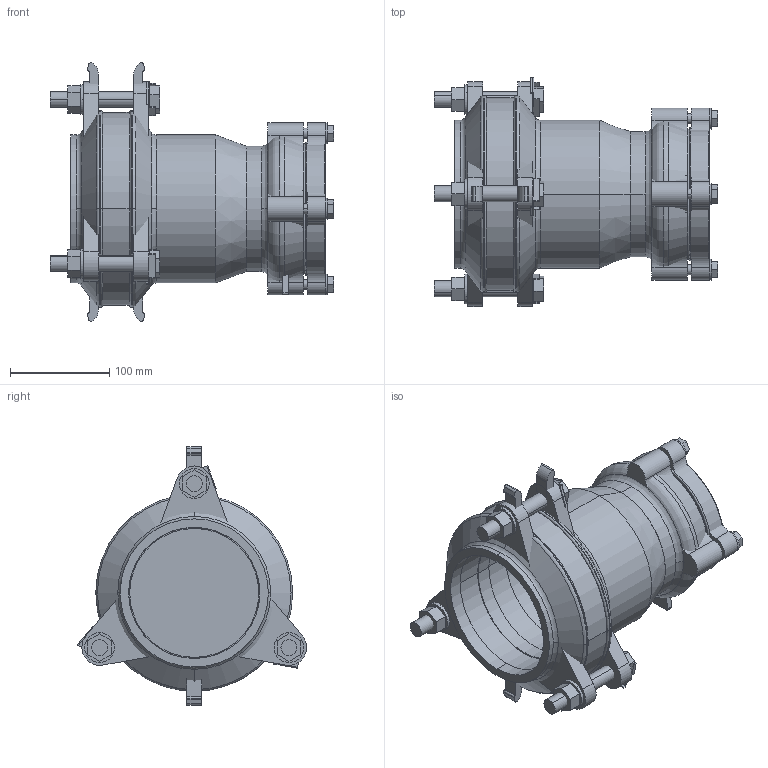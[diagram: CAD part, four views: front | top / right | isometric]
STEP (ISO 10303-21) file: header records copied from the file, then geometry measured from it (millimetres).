
FILE_DESCRIPTION(('STEP AP214'),'1');
FILE_NAME('MJB0004442 DN100-PE110.STP','2015-02-06T10:48:27',(' '),(' '),'Spatial InterOp 3D',' ',' ');
FILE_SCHEMA(('automotive_design'));
Length unit declared in the file: millimetre
Products named in the file (56): 3D-Objekt
Bounding box: 285 x 230.5 x 260 mm (x, y, z)
Volume: 2506932.7 mm3; surface area: 565103.4 mm2
Topology: 56 solids, 56 shells, 429 faces, 945 edges, 628 vertices
Faces by surface type: plane 274, cylinder 117, torus 24, cone 14
Entity records: 16605 total; most frequent: DIRECTION 2243, CARTESIAN_POINT 2058, ORIENTED_EDGE 1890, EDGE_CURVE 945, AXIS2_PLACEMENT_3D 813, VERTEX_POINT 628, LINE 617, VECTOR 617
